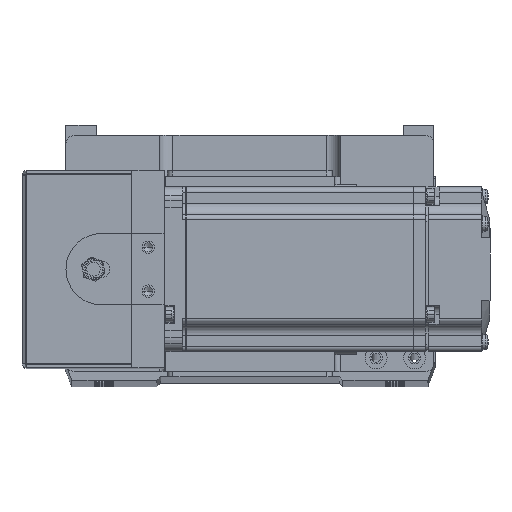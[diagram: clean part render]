
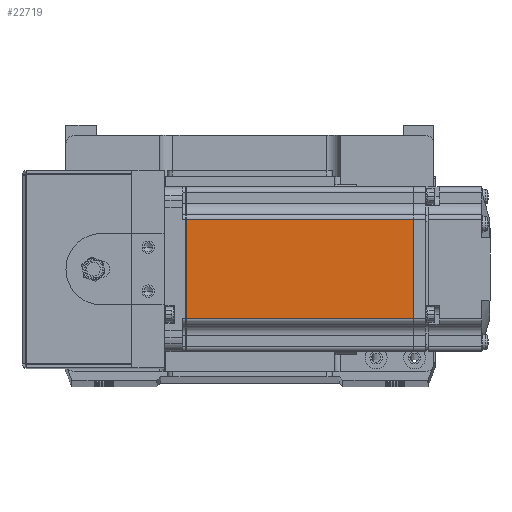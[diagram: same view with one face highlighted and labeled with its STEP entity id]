
A CAD part, top view. The second image highlights one B-rep face of the part: STEP entity #22719.
In plain terms, the highlighted planar face has unit normal (0, 0, 1) as drawn and (0, 1, 0) by its records, which use the part's own axes.
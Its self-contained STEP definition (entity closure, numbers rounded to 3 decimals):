
#919 = CARTESIAN_POINT ( 'NONE',  ( -6.5, 30., 25. ) ) ;
#1220 = ORIENTED_EDGE ( 'NONE', *, *, #32377, .F. ) ;
#1317 = CARTESIAN_POINT ( 'NONE',  ( -7.75, 30., 0. ) ) ;
#1716 = LINE ( 'NONE', #1317, #36960 ) ;
#2983 = EDGE_CURVE ( 'NONE', #27680, #27377, #31479, .T. ) ;
#3596 = CARTESIAN_POINT ( 'NONE',  ( -6.5, 30., 18. ) ) ;
#4201 = VERTEX_POINT ( 'NONE', #37884 ) ;
#4823 = VECTOR ( 'NONE', #17760, 1000. ) ;
#7052 = DIRECTION ( 'NONE',  ( 0., 0., 1. ) ) ;
#8439 = VERTEX_POINT ( 'NONE', #33768 ) ;
#9016 = LINE ( 'NONE', #21022, #4823 ) ;
#10123 = DIRECTION ( 'NONE',  ( 0., 1., 0. ) ) ;
#11687 = CARTESIAN_POINT ( 'NONE',  ( -90.45, 30., 18. ) ) ;
#13720 = ORIENTED_EDGE ( 'NONE', *, *, #25947, .T. ) ;
#13775 = DIRECTION ( 'NONE',  ( 0., 0., 1. ) ) ;
#14948 = ORIENTED_EDGE ( 'NONE', *, *, #22317, .T. ) ;
#17760 = DIRECTION ( 'NONE',  ( -1., 0., 0. ) ) ;
#18951 = VECTOR ( 'NONE', #28268, 1000. ) ;
#19462 = EDGE_LOOP ( 'NONE', ( #1220, #14948, #13720, #31599 ) ) ;
#21022 = CARTESIAN_POINT ( 'NONE',  ( -6.5, 30., -18. ) ) ;
#22317 = EDGE_CURVE ( 'NONE', #8439, #4201, #9016, .T. ) ;
#22719 = ADVANCED_FACE ( 'NONE', ( #38017 ), #32069, .T. ) ;
#25947 = EDGE_CURVE ( 'NONE', #4201, #27680, #39952, .T. ) ;
#26981 = AXIS2_PLACEMENT_3D ( 'NONE', #919, #10123, #7052 ) ;
#27377 = VERTEX_POINT ( 'NONE', #37236 ) ;
#27680 = VERTEX_POINT ( 'NONE', #11687 ) ;
#27699 = DIRECTION ( 'NONE',  ( 0., 0., 1. ) ) ;
#28268 = DIRECTION ( 'NONE',  ( 1., 0., 0. ) ) ;
#31479 = LINE ( 'NONE', #3596, #18951 ) ;
#31599 = ORIENTED_EDGE ( 'NONE', *, *, #2983, .T. ) ;
#32069 = PLANE ( 'NONE',  #26981 ) ;
#32377 = EDGE_CURVE ( 'NONE', #8439, #27377, #1716, .T. ) ;
#33109 = VECTOR ( 'NONE', #27699, 1000. ) ;
#33768 = CARTESIAN_POINT ( 'NONE',  ( -7.75, 30., -18. ) ) ;
#36885 = CARTESIAN_POINT ( 'NONE',  ( -90.45, 30., 0. ) ) ;
#36960 = VECTOR ( 'NONE', #13775, 1000. ) ;
#37236 = CARTESIAN_POINT ( 'NONE',  ( -7.75, 30., 18. ) ) ;
#37884 = CARTESIAN_POINT ( 'NONE',  ( -90.45, 30., -18. ) ) ;
#38017 = FACE_OUTER_BOUND ( 'NONE', #19462, .T. ) ;
#39952 = LINE ( 'NONE', #36885, #33109 ) ;
